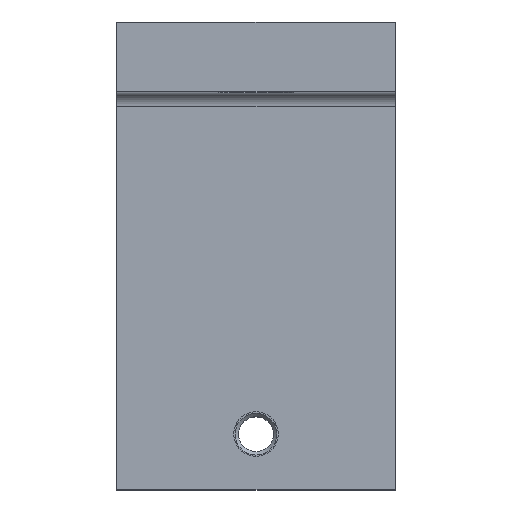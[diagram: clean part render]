
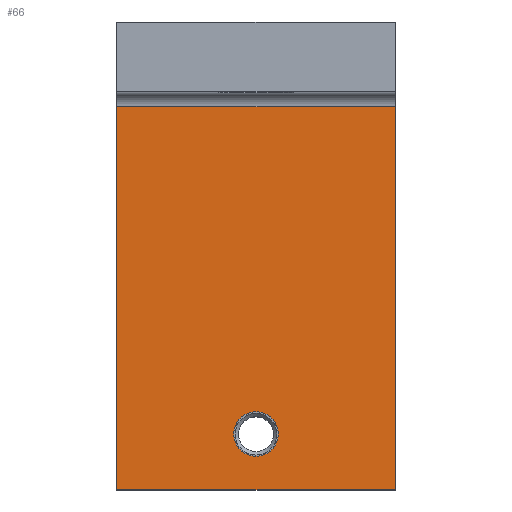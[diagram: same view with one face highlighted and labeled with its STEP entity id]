
A CAD part, top view. The second image highlights one B-rep face of the part: STEP entity #66.
In plain terms, the highlighted planar face has unit normal (0, 0, 1).
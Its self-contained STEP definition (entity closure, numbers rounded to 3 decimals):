
#43=FACE_BOUND('',#115,.T.);
#44=FACE_BOUND('',#116,.T.);
#66=ADVANCED_FACE('',(#43,#44),#88,.F.);
#88=PLANE('',#431);
#115=EDGE_LOOP('',(#175,#176,#177,#178));
#116=EDGE_LOOP('',(#179));
#147=CIRCLE('',#430,1.6);
#175=ORIENTED_EDGE('',*,*,#306,.T.);
#176=ORIENTED_EDGE('',*,*,#311,.T.);
#177=ORIENTED_EDGE('',*,*,#294,.F.);
#178=ORIENTED_EDGE('',*,*,#312,.F.);
#179=ORIENTED_EDGE('',*,*,#313,.F.);
#258=VERTEX_POINT('',#569);
#259=VERTEX_POINT('',#570);
#270=VERTEX_POINT('',#593);
#271=VERTEX_POINT('',#595);
#273=VERTEX_POINT('',#606);
#294=EDGE_CURVE('',#258,#259,#345,.T.);
#306=EDGE_CURVE('',#271,#270,#355,.T.);
#311=EDGE_CURVE('',#270,#259,#359,.T.);
#312=EDGE_CURVE('',#271,#258,#360,.T.);
#313=EDGE_CURVE('',#273,#273,#147,.T.);
#345=LINE('',#568,#384);
#355=LINE('',#594,#394);
#359=LINE('',#603,#398);
#360=LINE('',#604,#399);
#384=VECTOR('',#460,1.);
#394=VECTOR('',#476,1.);
#398=VECTOR('',#486,1.);
#399=VECTOR('',#487,1.);
#430=AXIS2_PLACEMENT_3D('',#605,#488,#489);
#431=AXIS2_PLACEMENT_3D('',#607,#490,#491);
#460=DIRECTION('',(0.,1.,0.));
#476=DIRECTION('',(0.,1.,0.));
#486=DIRECTION('',(-1.,0.,0.));
#487=DIRECTION('',(-1.,0.,0.));
#488=DIRECTION('',(0.,0.,1.));
#489=DIRECTION('',(1.,0.,0.));
#490=DIRECTION('',(0.,0.,-1.));
#491=DIRECTION('',(1.,0.,0.));
#568=CARTESIAN_POINT('',(-10.,33.,-150.5));
#569=CARTESIAN_POINT('',(-10.,33.,-150.5));
#570=CARTESIAN_POINT('',(-10.,60.5,-150.5));
#593=CARTESIAN_POINT('',(10.,60.5,-150.5));
#594=CARTESIAN_POINT('',(10.,33.,-150.5));
#595=CARTESIAN_POINT('',(10.,33.,-150.5));
#603=CARTESIAN_POINT('',(10.,60.5,-150.5));
#604=CARTESIAN_POINT('',(10.,33.,-150.5));
#605=CARTESIAN_POINT('',(0.,37.,-150.5));
#606=CARTESIAN_POINT('',(1.6,37.,-150.5));
#607=CARTESIAN_POINT('',(10.,33.,-150.5));
